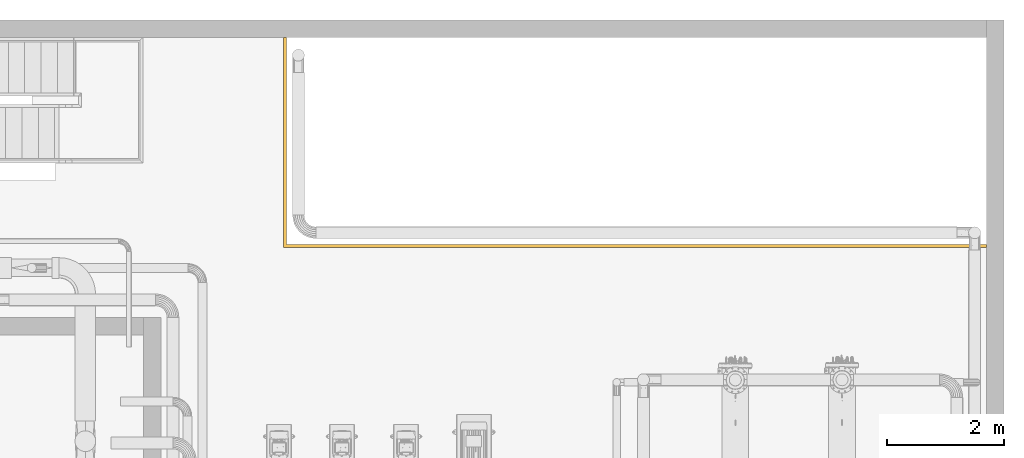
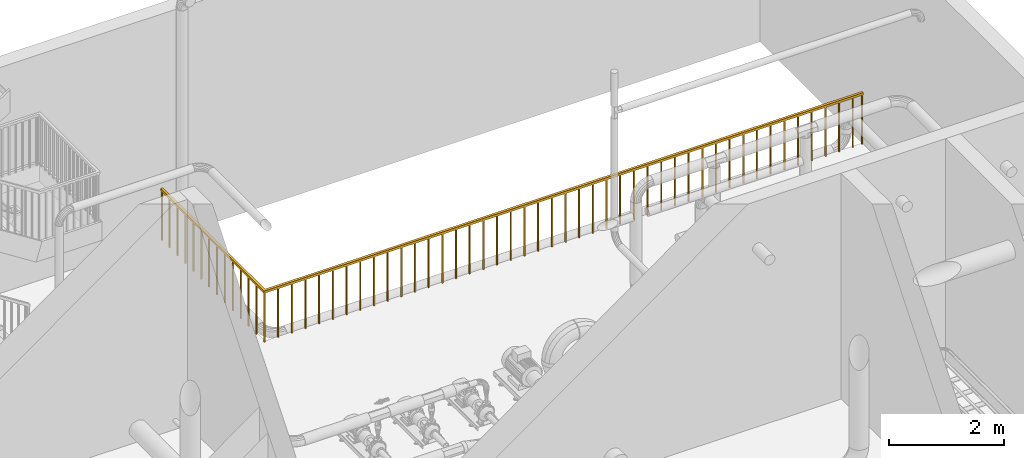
# One storey, part 3 of 28: 1 railing.
"""IFC2X3 building model written with IfcOpenShell, lengths in millimetres."""

from ifc_helpers import new_model, entity, si_unit, converted_unit, direction, frame, origin, place, context, subcontext, project, spatial, faceted_brep, material, type_object, element, save


model = new_model("IFC2X3")

# Units and contexts
model_context = context("Model", 3, precision=0.01, world=origin(), true_north=direction((6.123031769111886e-17, 1.0)))
body_context = subcontext(model_context, "Body", "Model", "MODEL_VIEW")
ifc_project = project(units=[si_unit("LENGTHUNIT", "METRE", prefix="MILLI"), converted_unit("PLANEANGLEUNIT", "DEGREE", entity("IfcPlaneAngleMeasure", 0.017453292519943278), si_unit("PLANEANGLEUNIT", "RADIAN"), dimensions=[0, 0, 0, 0, 0, 0, 0]), si_unit("AREAUNIT", "SQUARE_METRE")], contexts=[model_context])

# Site, building, storey
site_placement = place(None, frame((7776.576483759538, 118.3519876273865, 0.0)))
site = spatial("IfcSite", under=ifc_project, at=site_placement, Name="Default", CompositionType="ELEMENT")
building_placement = place(site_placement, origin())
building = spatial("IfcBuilding", under=site, at=building_placement, Name="Bygning (endres i Project Information)", CompositionType="ELEMENT")
storey_placement = place(building_placement, frame((0.0, 0.0, 14000.0)))
storey = spatial("IfcBuildingStorey", under=building, at=storey_placement, Name="Plan U1 - Arbeid", CompositionType="ELEMENT", Elevation=14000.000000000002)

# Railing
ifc_material = material(Name="<Unnamed>")
railing_type = type_object("IfcRailingType", Name="Railing:1100mm", PredefinedType="NOTDEFINED")
railing_placement = place(storey_placement, frame((19924.00137486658, 30697.757305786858, 0.0)))
element("IfcRailing", 1, at=railing_placement, inside=storey, type_object=railing_type, material=ifc_material, Name="Railing:1100mm", ObjectType="Railing:1100mm", PredefinedType="NOTDEFINED", context=body_context, shape_type="Brep", body=[
    faceted_brep([(11837.499999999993, 37.50000000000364, 1050.0), (11837.499999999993, 37.50000000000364, 0.0), (11837.499999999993, 12.5, 0.0), (11837.499999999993, 12.500000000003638, 1050.0), (11862.499999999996, 12.5, 0.0), (11862.499999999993, 12.5, 1050.0), (11862.499999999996, 37.50000000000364, 0.0), (11862.499999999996, 37.49999999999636, 1050.0)], [[[0, 1, 2, 3]], [[3, 2, 4, 5]], [[5, 4, 6, 7]], [[1, 0, 7, 6]], [[0, 3, 5, 7]], [[2, 1, 6, 4]]]),
    faceted_brep([(11562.499999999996, 37.50000000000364, 1050.0), (11562.499999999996, 37.50000000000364, 0.0), (11562.499999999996, 12.5, 0.0), (11562.499999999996, 12.500000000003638, 1050.0), (11587.499999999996, 12.5, 0.0), (11587.499999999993, 12.5, 1050.0), (11587.499999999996, 37.50000000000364, 0.0), (11587.499999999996, 37.49999999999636, 1050.0)], [[[0, 1, 2, 3]], [[3, 2, 4, 5]], [[5, 4, 6, 7]], [[1, 0, 7, 6]], [[0, 3, 5, 7]], [[2, 1, 6, 4]]]),
    faceted_brep([(11287.499999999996, 37.500000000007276, 1050.0), (11287.499999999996, 37.500000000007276, 0.0), (11287.499999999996, 12.500000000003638, 0.0), (11287.499999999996, 12.500000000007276, 1050.0), (11312.5, 12.500000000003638, 0.0), (11312.499999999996, 12.500000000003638, 1050.0), (11312.5, 37.500000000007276, 0.0), (11312.5, 37.50000000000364, 1050.0)], [[[0, 1, 2, 3]], [[3, 2, 4, 5]], [[5, 4, 6, 7]], [[1, 0, 7, 6]], [[0, 3, 5, 7]], [[2, 1, 6, 4]]]),
    faceted_brep([(11012.499999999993, 37.500000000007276, 1050.0), (11012.499999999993, 37.500000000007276, 0.0), (11012.499999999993, 12.500000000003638, 0.0), (11012.499999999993, 12.500000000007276, 1050.0), (11037.499999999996, 12.500000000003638, 0.0), (11037.499999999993, 12.500000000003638, 1050.0), (11037.499999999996, 37.500000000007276, 0.0), (11037.499999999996, 37.50000000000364, 1050.0)], [[[0, 1, 2, 3]], [[3, 2, 4, 5]], [[5, 4, 6, 7]], [[1, 0, 7, 6]], [[0, 3, 5, 7]], [[2, 1, 6, 4]]]),
    faceted_brep([(10737.499999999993, 37.500000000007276, 1050.0), (10737.499999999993, 37.500000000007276, 0.0), (10737.499999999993, 12.500000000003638, 0.0), (10737.499999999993, 12.500000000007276, 1050.0), (10762.499999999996, 12.500000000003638, 0.0), (10762.499999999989, 12.500000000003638, 1050.0), (10762.499999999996, 37.500000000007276, 0.0), (10762.499999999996, 37.50000000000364, 1050.0)], [[[0, 1, 2, 3]], [[3, 2, 4, 5]], [[5, 4, 6, 7]], [[1, 0, 7, 6]], [[0, 3, 5, 7]], [[2, 1, 6, 4]]]),
    faceted_brep([(10462.499999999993, 37.500000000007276, 1050.0), (10462.499999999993, 37.500000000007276, 0.0), (10462.499999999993, 12.500000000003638, 0.0), (10462.499999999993, 12.500000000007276, 1050.0), (10487.499999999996, 12.500000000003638, 0.0), (10487.499999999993, 12.500000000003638, 1050.0), (10487.499999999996, 37.500000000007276, 0.0), (10487.499999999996, 37.50000000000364, 1050.0)], [[[0, 1, 2, 3]], [[3, 2, 4, 5]], [[5, 4, 6, 7]], [[1, 0, 7, 6]], [[0, 3, 5, 7]], [[2, 1, 6, 4]]]),
    faceted_brep([(10187.499999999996, 37.500000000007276, 1050.0), (10187.499999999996, 37.500000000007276, 0.0), (10187.499999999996, 12.500000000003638, 0.0), (10187.499999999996, 12.500000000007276, 1050.0), (10212.5, 12.500000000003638, 0.0), (10212.499999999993, 12.500000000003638, 1050.0), (10212.5, 37.500000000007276, 0.0), (10212.5, 37.50000000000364, 1050.0)], [[[0, 1, 2, 3]], [[3, 2, 4, 5]], [[5, 4, 6, 7]], [[1, 0, 7, 6]], [[0, 3, 5, 7]], [[2, 1, 6, 4]]]),
    faceted_brep([(9912.499999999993, 37.500000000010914, 1050.0), (9912.499999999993, 37.500000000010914, 0.0), (9912.499999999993, 12.500000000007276, 0.0), (9912.499999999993, 12.500000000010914, 1050.0), (9937.499999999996, 12.500000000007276, 0.0), (9937.499999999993, 12.500000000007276, 1050.0), (9937.499999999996, 37.500000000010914, 0.0), (9937.499999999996, 37.500000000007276, 1050.0)], [[[0, 1, 2, 3]], [[3, 2, 4, 5]], [[5, 4, 6, 7]], [[1, 0, 7, 6]], [[0, 3, 5, 7]], [[2, 1, 6, 4]]]),
    faceted_brep([(9637.499999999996, 37.500000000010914, 1050.0), (9637.499999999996, 37.500000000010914, 0.0), (9637.499999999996, 12.500000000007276, 0.0), (9637.499999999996, 12.500000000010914, 1050.0), (9662.499999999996, 12.500000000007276, 0.0), (9662.499999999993, 12.500000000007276, 1050.0), (9662.499999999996, 37.500000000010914, 0.0), (9662.499999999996, 37.500000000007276, 1050.0)], [[[0, 1, 2, 3]], [[3, 2, 4, 5]], [[5, 4, 6, 7]], [[1, 0, 7, 6]], [[0, 3, 5, 7]], [[2, 1, 6, 4]]]),
    faceted_brep([(9362.499999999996, 37.500000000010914, 1050.0), (9362.499999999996, 37.500000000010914, 0.0), (9362.499999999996, 12.500000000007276, 0.0), (9362.499999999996, 12.500000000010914, 1050.0), (9387.5, 12.500000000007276, 0.0), (9387.499999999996, 12.500000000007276, 1050.0), (9387.5, 37.500000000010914, 0.0), (9387.5, 37.500000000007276, 1050.0)], [[[0, 1, 2, 3]], [[3, 2, 4, 5]], [[5, 4, 6, 7]], [[1, 0, 7, 6]], [[0, 3, 5, 7]], [[2, 1, 6, 4]]]),
    faceted_brep([(9087.499999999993, 37.500000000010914, 1050.0), (9087.499999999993, 37.500000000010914, 0.0), (9087.499999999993, 12.500000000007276, 0.0), (9087.499999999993, 12.500000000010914, 1050.0), (9112.499999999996, 12.500000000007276, 0.0), (9112.499999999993, 12.500000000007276, 1050.0), (9112.499999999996, 37.500000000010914, 0.0), (9112.499999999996, 37.500000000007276, 1050.0)], [[[0, 1, 2, 3]], [[3, 2, 4, 5]], [[5, 4, 6, 7]], [[1, 0, 7, 6]], [[0, 3, 5, 7]], [[2, 1, 6, 4]]]),
    faceted_brep([(8812.499999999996, 37.500000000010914, 1050.0), (8812.499999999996, 37.500000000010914, 0.0), (8812.499999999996, 12.500000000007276, 0.0), (8812.499999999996, 12.500000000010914, 1050.0), (8837.5, 12.500000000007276, 0.0), (8837.499999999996, 12.500000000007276, 1050.0), (8837.5, 37.500000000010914, 0.0), (8837.5, 37.500000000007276, 1050.0)], [[[0, 1, 2, 3]], [[3, 2, 4, 5]], [[5, 4, 6, 7]], [[1, 0, 7, 6]], [[0, 3, 5, 7]], [[2, 1, 6, 4]]]),
    faceted_brep([(8537.499999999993, 37.50000000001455, 1050.0), (8537.499999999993, 37.50000000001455, 0.0), (8537.499999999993, 12.500000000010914, 0.0), (8537.499999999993, 12.500000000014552, 1050.0), (8562.499999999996, 12.500000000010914, 0.0), (8562.499999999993, 12.500000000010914, 1050.0), (8562.499999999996, 37.50000000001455, 0.0), (8562.499999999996, 37.500000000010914, 1050.0)], [[[0, 1, 2, 3]], [[3, 2, 4, 5]], [[5, 4, 6, 7]], [[1, 0, 7, 6]], [[0, 3, 5, 7]], [[2, 1, 6, 4]]]),
    faceted_brep([(8262.499999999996, 37.50000000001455, 1050.0), (8262.499999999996, 37.50000000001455, 0.0), (8262.499999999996, 12.500000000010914, 0.0), (8262.499999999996, 12.500000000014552, 1050.0), (8287.5, 12.500000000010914, 0.0), (8287.499999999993, 12.500000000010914, 1050.0), (8287.5, 37.50000000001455, 0.0), (8287.5, 37.500000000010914, 1050.0)], [[[0, 1, 2, 3]], [[3, 2, 4, 5]], [[5, 4, 6, 7]], [[1, 0, 7, 6]], [[0, 3, 5, 7]], [[2, 1, 6, 4]]]),
    faceted_brep([(7987.499999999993, 37.50000000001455, 1050.0), (7987.499999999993, 37.50000000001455, 0.0), (7987.499999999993, 12.500000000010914, 0.0), (7987.499999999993, 12.500000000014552, 1050.0), (8012.499999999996, 12.500000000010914, 0.0), (8012.499999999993, 12.500000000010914, 1050.0), (8012.499999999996, 37.50000000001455, 0.0), (8012.499999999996, 37.500000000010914, 1050.0)], [[[0, 1, 2, 3]], [[3, 2, 4, 5]], [[5, 4, 6, 7]], [[1, 0, 7, 6]], [[0, 3, 5, 7]], [[2, 1, 6, 4]]]),
    faceted_brep([(7712.499999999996, 37.50000000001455, 1050.0), (7712.499999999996, 37.50000000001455, 0.0), (7712.499999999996, 12.500000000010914, 0.0), (7712.499999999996, 12.500000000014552, 1050.0), (7737.499999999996, 12.500000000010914, 0.0), (7737.499999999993, 12.500000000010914, 1050.0), (7737.499999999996, 37.50000000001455, 0.0), (7737.499999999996, 37.500000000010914, 1050.0)], [[[0, 1, 2, 3]], [[3, 2, 4, 5]], [[5, 4, 6, 7]], [[1, 0, 7, 6]], [[0, 3, 5, 7]], [[2, 1, 6, 4]]]),
    faceted_brep([(7437.499999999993, 37.50000000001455, 1050.0), (7437.499999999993, 37.50000000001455, 0.0), (7437.499999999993, 12.500000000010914, 0.0), (7437.499999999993, 12.500000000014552, 1050.0), (7462.499999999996, 12.500000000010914, 0.0), (7462.499999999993, 12.500000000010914, 1050.0), (7462.499999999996, 37.50000000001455, 0.0), (7462.499999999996, 37.500000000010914, 1050.0)], [[[0, 1, 2, 3]], [[3, 2, 4, 5]], [[5, 4, 6, 7]], [[1, 0, 7, 6]], [[0, 3, 5, 7]], [[2, 1, 6, 4]]]),
    faceted_brep([(7162.499999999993, 37.50000000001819, 1050.0), (7162.499999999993, 37.50000000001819, 0.0), (7162.499999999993, 12.500000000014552, 0.0), (7162.499999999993, 12.500000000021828, 1050.0), (7187.499999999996, 12.500000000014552, 0.0), (7187.499999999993, 12.500000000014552, 1050.0), (7187.499999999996, 37.50000000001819, 0.0), (7187.499999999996, 37.50000000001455, 1050.0)], [[[0, 1, 2, 3]], [[3, 2, 4, 5]], [[5, 4, 6, 7]], [[1, 0, 7, 6]], [[0, 3, 5, 7]], [[2, 1, 6, 4]]]),
    faceted_brep([(6887.499999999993, 37.50000000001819, 1050.0), (6887.499999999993, 37.50000000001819, 0.0), (6887.499999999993, 12.500000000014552, 0.0), (6887.499999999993, 12.500000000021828, 1050.0), (6912.499999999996, 12.500000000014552, 0.0), (6912.499999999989, 12.500000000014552, 1050.0), (6912.499999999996, 37.50000000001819, 0.0), (6912.499999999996, 37.50000000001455, 1050.0)], [[[0, 1, 2, 3]], [[3, 2, 4, 5]], [[5, 4, 6, 7]], [[1, 0, 7, 6]], [[0, 3, 5, 7]], [[2, 1, 6, 4]]]),
    faceted_brep([(6612.499999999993, 37.50000000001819, 1050.0), (6612.499999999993, 37.50000000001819, 0.0), (6612.499999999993, 12.500000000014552, 0.0), (6612.499999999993, 12.500000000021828, 1050.0), (6637.499999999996, 12.500000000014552, 0.0), (6637.499999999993, 12.500000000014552, 1050.0), (6637.499999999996, 37.50000000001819, 0.0), (6637.499999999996, 37.50000000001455, 1050.0)], [[[0, 1, 2, 3]], [[3, 2, 4, 5]], [[5, 4, 6, 7]], [[1, 0, 7, 6]], [[0, 3, 5, 7]], [[2, 1, 6, 4]]]),
    faceted_brep([(6337.499999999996, 37.50000000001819, 1050.0), (6337.499999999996, 37.50000000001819, 0.0), (6337.499999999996, 12.500000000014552, 0.0), (6337.499999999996, 12.500000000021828, 1050.0), (6362.5, 12.500000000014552, 0.0), (6362.499999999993, 12.500000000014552, 1050.0), (6362.5, 37.50000000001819, 0.0), (6362.5, 37.50000000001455, 1050.0)], [[[0, 1, 2, 3]], [[3, 2, 4, 5]], [[5, 4, 6, 7]], [[1, 0, 7, 6]], [[0, 3, 5, 7]], [[2, 1, 6, 4]]]),
    faceted_brep([(6062.499999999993, 37.50000000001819, 1050.0), (6062.499999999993, 37.50000000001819, 0.0), (6062.499999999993, 12.500000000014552, 0.0), (6062.499999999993, 12.500000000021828, 1050.0), (6087.499999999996, 12.500000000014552, 0.0), (6087.499999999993, 12.500000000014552, 1050.0), (6087.499999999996, 37.50000000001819, 0.0), (6087.499999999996, 37.50000000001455, 1050.0)], [[[0, 1, 2, 3]], [[3, 2, 4, 5]], [[5, 4, 6, 7]], [[1, 0, 7, 6]], [[0, 3, 5, 7]], [[2, 1, 6, 4]]]),
    faceted_brep([(5787.499999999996, 37.50000000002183, 1050.0), (5787.499999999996, 37.50000000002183, 0.0), (5787.499999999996, 12.500000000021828, 0.0), (5787.499999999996, 12.500000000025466, 1050.0), (5812.5, 12.500000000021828, 0.0), (5812.499999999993, 12.500000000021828, 1050.0), (5812.5, 37.50000000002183, 0.0), (5812.5, 37.50000000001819, 1050.0)], [[[0, 1, 2, 3]], [[3, 2, 4, 5]], [[5, 4, 6, 7]], [[1, 0, 7, 6]], [[0, 3, 5, 7]], [[2, 1, 6, 4]]]),
    faceted_brep([(5512.499999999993, 37.50000000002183, 1050.0), (5512.499999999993, 37.50000000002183, 0.0), (5512.499999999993, 12.500000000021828, 0.0), (5512.499999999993, 12.500000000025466, 1050.0), (5537.499999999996, 12.500000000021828, 0.0), (5537.499999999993, 12.500000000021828, 1050.0), (5537.499999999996, 37.50000000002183, 0.0), (5537.499999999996, 37.50000000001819, 1050.0)], [[[0, 1, 2, 3]], [[3, 2, 4, 5]], [[5, 4, 6, 7]], [[1, 0, 7, 6]], [[0, 3, 5, 7]], [[2, 1, 6, 4]]]),
    faceted_brep([(5237.499999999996, 37.50000000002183, 1050.0), (5237.499999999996, 37.50000000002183, 0.0), (5237.499999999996, 12.500000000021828, 0.0), (5237.499999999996, 12.500000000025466, 1050.0), (5262.499999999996, 12.500000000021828, 0.0), (5262.499999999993, 12.500000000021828, 1050.0), (5262.499999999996, 37.50000000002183, 0.0), (5262.499999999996, 37.50000000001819, 1050.0)], [[[0, 1, 2, 3]], [[3, 2, 4, 5]], [[5, 4, 6, 7]], [[1, 0, 7, 6]], [[0, 3, 5, 7]], [[2, 1, 6, 4]]]),
    faceted_brep([(4962.499999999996, 37.50000000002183, 1050.0), (4962.499999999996, 37.50000000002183, 0.0), (4962.499999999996, 12.500000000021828, 0.0), (4962.499999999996, 12.500000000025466, 1050.0), (4987.5, 12.500000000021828, 0.0), (4987.499999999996, 12.500000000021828, 1050.0), (4987.5, 37.50000000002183, 0.0), (4987.5, 37.50000000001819, 1050.0)], [[[0, 1, 2, 3]], [[3, 2, 4, 5]], [[5, 4, 6, 7]], [[1, 0, 7, 6]], [[0, 3, 5, 7]], [[2, 1, 6, 4]]]),
    faceted_brep([(4687.499999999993, 37.50000000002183, 1050.0), (4687.499999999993, 37.50000000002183, 0.0), (4687.499999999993, 12.500000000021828, 0.0), (4687.499999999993, 12.500000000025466, 1050.0), (4712.499999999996, 12.500000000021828, 0.0), (4712.499999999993, 12.500000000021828, 1050.0), (4712.499999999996, 37.50000000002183, 0.0), (4712.499999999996, 37.50000000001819, 1050.0)], [[[0, 1, 2, 3]], [[3, 2, 4, 5]], [[5, 4, 6, 7]], [[1, 0, 7, 6]], [[0, 3, 5, 7]], [[2, 1, 6, 4]]]),
    faceted_brep([(4412.499999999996, 37.500000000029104, 1050.0), (4412.499999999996, 37.500000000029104, 0.0), (4412.499999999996, 12.500000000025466, 0.0), (4412.499999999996, 12.500000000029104, 1050.0), (4437.5, 12.500000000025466, 0.0), (4437.499999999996, 12.500000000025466, 1050.0), (4437.5, 37.500000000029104, 0.0), (4437.5, 37.50000000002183, 1050.0)], [[[0, 1, 2, 3]], [[3, 2, 4, 5]], [[5, 4, 6, 7]], [[1, 0, 7, 6]], [[0, 3, 5, 7]], [[2, 1, 6, 4]]]),
    faceted_brep([(4137.499999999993, 37.500000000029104, 1050.0), (4137.499999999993, 37.500000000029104, 0.0), (4137.499999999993, 12.500000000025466, 0.0), (4137.499999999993, 12.500000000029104, 1050.0), (4162.499999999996, 12.500000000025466, 0.0), (4162.499999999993, 12.500000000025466, 1050.0), (4162.499999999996, 37.500000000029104, 0.0), (4162.499999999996, 37.50000000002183, 1050.0)], [[[0, 1, 2, 3]], [[3, 2, 4, 5]], [[5, 4, 6, 7]], [[1, 0, 7, 6]], [[0, 3, 5, 7]], [[2, 1, 6, 4]]]),
    faceted_brep([(3862.4999999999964, 37.500000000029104, 1050.0), (3862.4999999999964, 37.500000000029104, 0.0), (3862.4999999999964, 12.500000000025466, 0.0), (3862.4999999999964, 12.500000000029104, 1050.0), (3887.5, 12.500000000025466, 0.0), (3887.4999999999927, 12.500000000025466, 1050.0), (3887.5, 37.500000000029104, 0.0), (3887.5, 37.50000000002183, 1050.0)], [[[0, 1, 2, 3]], [[3, 2, 4, 5]], [[5, 4, 6, 7]], [[1, 0, 7, 6]], [[0, 3, 5, 7]], [[2, 1, 6, 4]]]),
    faceted_brep([(3587.4999999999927, 37.500000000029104, 1050.0), (3587.4999999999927, 37.500000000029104, 0.0), (3587.4999999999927, 12.500000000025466, 0.0), (3587.4999999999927, 12.500000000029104, 1050.0), (3612.4999999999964, 12.500000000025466, 0.0), (3612.4999999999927, 12.500000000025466, 1050.0), (3612.4999999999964, 37.500000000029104, 0.0), (3612.4999999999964, 37.50000000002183, 1050.0)], [[[0, 1, 2, 3]], [[3, 2, 4, 5]], [[5, 4, 6, 7]], [[1, 0, 7, 6]], [[0, 3, 5, 7]], [[2, 1, 6, 4]]]),
    faceted_brep([(3312.4999999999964, 37.50000000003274, 1050.0), (3312.4999999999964, 37.50000000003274, 0.0), (3312.4999999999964, 12.500000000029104, 0.0), (3312.4999999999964, 12.500000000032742, 1050.0), (3337.4999999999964, 12.500000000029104, 0.0), (3337.4999999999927, 12.500000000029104, 1050.0), (3337.4999999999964, 37.50000000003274, 0.0), (3337.4999999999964, 37.500000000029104, 1050.0)], [[[0, 1, 2, 3]], [[3, 2, 4, 5]], [[5, 4, 6, 7]], [[1, 0, 7, 6]], [[0, 3, 5, 7]], [[2, 1, 6, 4]]]),
    faceted_brep([(3037.4999999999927, 37.50000000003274, 1050.0), (3037.4999999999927, 37.50000000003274, 0.0), (3037.4999999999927, 12.500000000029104, 0.0), (3037.4999999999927, 12.500000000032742, 1050.0), (3062.4999999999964, 12.500000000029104, 0.0), (3062.4999999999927, 12.500000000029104, 1050.0), (3062.4999999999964, 37.50000000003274, 0.0), (3062.4999999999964, 37.500000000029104, 1050.0)], [[[0, 1, 2, 3]], [[3, 2, 4, 5]], [[5, 4, 6, 7]], [[1, 0, 7, 6]], [[0, 3, 5, 7]], [[2, 1, 6, 4]]]),
    faceted_brep([(2762.4999999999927, 37.50000000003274, 1050.0), (2762.4999999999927, 37.50000000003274, 0.0), (2762.4999999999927, 12.500000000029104, 0.0), (2762.4999999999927, 12.500000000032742, 1050.0), (2787.4999999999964, 12.500000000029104, 0.0), (2787.4999999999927, 12.500000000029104, 1050.0), (2787.4999999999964, 37.50000000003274, 0.0), (2787.4999999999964, 37.500000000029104, 1050.0)], [[[0, 1, 2, 3]], [[3, 2, 4, 5]], [[5, 4, 6, 7]], [[1, 0, 7, 6]], [[0, 3, 5, 7]], [[2, 1, 6, 4]]]),
    faceted_brep([(2487.4999999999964, 37.50000000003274, 1050.0), (2487.4999999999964, 37.50000000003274, 0.0), (2487.4999999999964, 12.500000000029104, 0.0), (2487.4999999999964, 12.500000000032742, 1050.0), (2512.5, 12.500000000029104, 0.0), (2512.4999999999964, 12.500000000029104, 1050.0), (2512.5, 37.50000000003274, 0.0), (2512.5, 37.500000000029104, 1050.0)], [[[0, 1, 2, 3]], [[3, 2, 4, 5]], [[5, 4, 6, 7]], [[1, 0, 7, 6]], [[0, 3, 5, 7]], [[2, 1, 6, 4]]]),
    faceted_brep([(2212.4999999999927, 37.50000000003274, 1050.0), (2212.4999999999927, 37.50000000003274, 0.0), (2212.4999999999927, 12.500000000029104, 0.0), (2212.4999999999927, 12.500000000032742, 1050.0), (2237.4999999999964, 12.500000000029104, 0.0), (2237.4999999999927, 12.500000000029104, 1050.0), (2237.4999999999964, 37.50000000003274, 0.0), (2237.4999999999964, 37.500000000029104, 1050.0)], [[[0, 1, 2, 3]], [[3, 2, 4, 5]], [[5, 4, 6, 7]], [[1, 0, 7, 6]], [[0, 3, 5, 7]], [[2, 1, 6, 4]]]),
    faceted_brep([(1937.4999999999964, 37.50000000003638, 1050.0), (1937.4999999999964, 37.50000000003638, 0.0), (1937.4999999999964, 12.500000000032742, 0.0), (1937.4999999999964, 12.50000000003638, 1050.0), (1962.5, 12.500000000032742, 0.0), (1962.4999999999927, 12.500000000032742, 1050.0), (1962.5, 37.50000000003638, 0.0), (1962.5, 37.50000000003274, 1050.0)], [[[0, 1, 2, 3]], [[3, 2, 4, 5]], [[5, 4, 6, 7]], [[1, 0, 7, 6]], [[0, 3, 5, 7]], [[2, 1, 6, 4]]]),
    faceted_brep([(1662.4999999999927, 37.50000000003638, 1050.0), (1662.4999999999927, 37.50000000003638, 0.0), (1662.4999999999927, 12.500000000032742, 0.0), (1662.4999999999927, 12.50000000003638, 1050.0), (1687.4999999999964, 12.500000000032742, 0.0), (1687.4999999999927, 12.500000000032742, 1050.0), (1687.4999999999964, 37.50000000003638, 0.0), (1687.4999999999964, 37.50000000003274, 1050.0)], [[[0, 1, 2, 3]], [[3, 2, 4, 5]], [[5, 4, 6, 7]], [[1, 0, 7, 6]], [[0, 3, 5, 7]], [[2, 1, 6, 4]]]),
    faceted_brep([(1387.4999999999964, 37.50000000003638, 1050.0), (1387.4999999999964, 37.50000000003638, 0.0), (1387.4999999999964, 12.500000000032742, 0.0), (1387.4999999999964, 12.50000000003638, 1050.0), (1412.4999999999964, 12.500000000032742, 0.0), (1412.4999999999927, 12.500000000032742, 1050.0), (1412.4999999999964, 37.50000000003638, 0.0), (1412.4999999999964, 37.50000000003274, 1050.0)], [[[0, 1, 2, 3]], [[3, 2, 4, 5]], [[5, 4, 6, 7]], [[1, 0, 7, 6]], [[0, 3, 5, 7]], [[2, 1, 6, 4]]]),
    faceted_brep([(1112.4999999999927, 37.50000000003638, 1050.0), (1112.4999999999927, 37.50000000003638, 0.0), (1112.4999999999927, 12.500000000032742, 0.0), (1112.4999999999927, 12.50000000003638, 1050.0), (1137.4999999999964, 12.500000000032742, 0.0), (1137.4999999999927, 12.500000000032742, 1050.0), (1137.4999999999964, 37.50000000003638, 0.0), (1137.4999999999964, 37.50000000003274, 1050.0)], [[[0, 1, 2, 3]], [[3, 2, 4, 5]], [[5, 4, 6, 7]], [[1, 0, 7, 6]], [[0, 3, 5, 7]], [[2, 1, 6, 4]]]),
    faceted_brep([(837.4999999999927, 37.50000000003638, 1050.0), (837.4999999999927, 37.50000000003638, 0.0), (837.4999999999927, 12.500000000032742, 0.0), (837.4999999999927, 12.50000000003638, 1050.0), (862.4999999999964, 12.500000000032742, 0.0), (862.4999999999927, 12.500000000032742, 1050.0), (862.4999999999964, 37.50000000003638, 0.0), (862.4999999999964, 37.50000000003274, 1050.0)], [[[0, 1, 2, 3]], [[3, 2, 4, 5]], [[5, 4, 6, 7]], [[1, 0, 7, 6]], [[0, 3, 5, 7]], [[2, 1, 6, 4]]]),
    faceted_brep([(562.4999999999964, 37.50000000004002, 1050.0), (562.4999999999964, 37.50000000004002, 0.0), (562.4999999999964, 12.50000000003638, 0.0), (562.4999999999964, 12.500000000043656, 1050.0), (587.5, 12.50000000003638, 0.0), (587.4999999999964, 12.50000000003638, 1050.0), (587.5, 37.50000000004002, 0.0), (587.5, 37.50000000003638, 1050.0)], [[[0, 1, 2, 3]], [[3, 2, 4, 5]], [[5, 4, 6, 7]], [[1, 0, 7, 6]], [[0, 3, 5, 7]], [[2, 1, 6, 4]]]),
    faceted_brep([(287.4999999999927, 37.50000000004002, 1050.0), (287.4999999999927, 37.50000000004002, 0.0), (287.4999999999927, 12.50000000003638, 0.0), (287.4999999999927, 12.500000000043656, 1050.0), (312.49999999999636, 12.50000000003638, 0.0), (312.4999999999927, 12.50000000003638, 1050.0), (312.49999999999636, 37.50000000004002, 0.0), (312.49999999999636, 37.50000000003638, 1050.0)], [[[0, 1, 2, 3]], [[3, 2, 4, 5]], [[5, 4, 6, 7]], [[1, 0, 7, 6]], [[0, 3, 5, 7]], [[2, 1, 6, 4]]]),
    faceted_brep([(37.5, 312.50000000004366, 1050.0), (37.5, 312.50000000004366, 0.0), (12.499999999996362, 312.50000000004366, 0.0), (12.5, 312.50000000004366, 1050.0), (12.499999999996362, 287.50000000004, 0.0), (12.499999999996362, 287.50000000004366, 1050.0), (37.5, 287.50000000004, 0.0), (37.499999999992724, 287.50000000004, 1050.0)], [[[0, 1, 2, 3]], [[3, 2, 4, 5]], [[5, 4, 6, 7]], [[1, 0, 7, 6]], [[0, 3, 5, 7]], [[2, 1, 6, 4]]]),
    faceted_brep([(37.5, 587.50000000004, 1050.0), (37.5, 587.50000000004, 0.0), (12.499999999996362, 587.50000000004, 0.0), (12.5, 587.50000000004, 1050.0), (12.499999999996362, 562.50000000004, 0.0), (12.499999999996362, 562.5000000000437, 1050.0), (37.5, 562.50000000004, 0.0), (37.499999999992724, 562.50000000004, 1050.0)], [[[0, 1, 2, 3]], [[3, 2, 4, 5]], [[5, 4, 6, 7]], [[1, 0, 7, 6]], [[0, 3, 5, 7]], [[2, 1, 6, 4]]]),
    faceted_brep([(37.5, 862.5000000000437, 1050.0), (37.5, 862.5000000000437, 0.0), (12.499999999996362, 862.5000000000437, 0.0), (12.5, 862.5000000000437, 1050.0), (12.499999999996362, 837.50000000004, 0.0), (12.499999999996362, 837.5000000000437, 1050.0), (37.5, 837.50000000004, 0.0), (37.499999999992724, 837.50000000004, 1050.0)], [[[0, 1, 2, 3]], [[3, 2, 4, 5]], [[5, 4, 6, 7]], [[1, 0, 7, 6]], [[0, 3, 5, 7]], [[2, 1, 6, 4]]]),
    faceted_brep([(37.5, 1137.5000000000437, 1050.0), (37.5, 1137.5000000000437, 0.0), (12.499999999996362, 1137.5000000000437, 0.0), (12.5, 1137.5000000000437, 1050.0), (12.499999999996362, 1112.50000000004, 0.0), (12.499999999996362, 1112.5000000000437, 1050.0), (37.5, 1112.50000000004, 0.0), (37.499999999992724, 1112.50000000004, 1050.0)], [[[0, 1, 2, 3]], [[3, 2, 4, 5]], [[5, 4, 6, 7]], [[1, 0, 7, 6]], [[0, 3, 5, 7]], [[2, 1, 6, 4]]]),
    faceted_brep([(37.5, 1412.50000000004, 1050.0), (37.5, 1412.50000000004, 0.0), (12.499999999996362, 1412.50000000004, 0.0), (12.5, 1412.50000000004, 1050.0), (12.499999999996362, 1387.5000000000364, 0.0), (12.499999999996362, 1387.50000000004, 1050.0), (37.5, 1387.5000000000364, 0.0), (37.499999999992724, 1387.5000000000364, 1050.0)], [[[0, 1, 2, 3]], [[3, 2, 4, 5]], [[5, 4, 6, 7]], [[1, 0, 7, 6]], [[0, 3, 5, 7]], [[2, 1, 6, 4]]]),
    faceted_brep([(37.50000000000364, 1687.5000000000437, 1050.0), (37.50000000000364, 1687.5000000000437, 0.0), (12.5, 1687.5000000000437, 0.0), (12.500000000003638, 1687.5000000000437, 1050.0), (12.5, 1662.50000000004, 0.0), (12.5, 1662.5000000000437, 1050.0), (37.50000000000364, 1662.50000000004, 0.0), (37.5, 1662.50000000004, 1050.0)], [[[0, 1, 2, 3]], [[3, 2, 4, 5]], [[5, 4, 6, 7]], [[1, 0, 7, 6]], [[0, 3, 5, 7]], [[2, 1, 6, 4]]]),
    faceted_brep([(37.50000000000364, 1962.50000000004, 1050.0), (37.50000000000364, 1962.50000000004, 0.0), (12.5, 1962.50000000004, 0.0), (12.500000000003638, 1962.50000000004, 1050.0), (12.5, 1937.5000000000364, 0.0), (12.5, 1937.5000000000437, 1050.0), (37.50000000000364, 1937.5000000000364, 0.0), (37.5, 1937.5000000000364, 1050.0)], [[[0, 1, 2, 3]], [[3, 2, 4, 5]], [[5, 4, 6, 7]], [[1, 0, 7, 6]], [[0, 3, 5, 7]], [[2, 1, 6, 4]]]),
    faceted_brep([(37.50000000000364, 2237.5000000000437, 1050.0), (37.50000000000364, 2237.5000000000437, 0.0), (12.5, 2237.5000000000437, 0.0), (12.500000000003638, 2237.5000000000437, 1050.0), (12.5, 2212.5000000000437, 0.0), (12.5, 2212.5000000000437, 1050.0), (37.50000000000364, 2212.5000000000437, 0.0), (37.5, 2212.5000000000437, 1050.0)], [[[0, 1, 2, 3]], [[3, 2, 4, 5]], [[5, 4, 6, 7]], [[1, 0, 7, 6]], [[0, 3, 5, 7]], [[2, 1, 6, 4]]]),
    faceted_brep([(37.50000000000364, 2512.5000000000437, 1050.0), (37.50000000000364, 2512.5000000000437, 0.0), (12.5, 2512.5000000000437, 0.0), (12.500000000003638, 2512.5000000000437, 1050.0), (12.5, 2487.5000000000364, 0.0), (12.5, 2487.5000000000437, 1050.0), (37.50000000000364, 2487.5000000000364, 0.0), (37.5, 2487.5000000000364, 1050.0)], [[[0, 1, 2, 3]], [[3, 2, 4, 5]], [[5, 4, 6, 7]], [[1, 0, 7, 6]], [[0, 3, 5, 7]], [[2, 1, 6, 4]]]),
    faceted_brep([(37.50000000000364, 2787.5000000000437, 1050.0), (37.50000000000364, 2787.5000000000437, 0.0), (12.5, 2787.5000000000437, 0.0), (12.500000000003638, 2787.5000000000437, 1050.0), (12.5, 2762.5000000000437, 0.0), (12.5, 2762.5000000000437, 1050.0), (37.50000000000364, 2762.5000000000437, 0.0), (37.5, 2762.5000000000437, 1050.0)], [[[0, 1, 2, 3]], [[3, 2, 4, 5]], [[5, 4, 6, 7]], [[1, 0, 7, 6]], [[0, 3, 5, 7]], [[2, 1, 6, 4]]]),
    faceted_brep([(37.50000000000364, 3062.5000000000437, 1050.0), (37.50000000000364, 3062.5000000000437, 0.0), (12.5, 3062.5000000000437, 0.0), (12.500000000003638, 3062.5000000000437, 1050.0), (12.5, 3037.5000000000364, 0.0), (12.5, 3037.5000000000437, 1050.0), (37.50000000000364, 3037.5000000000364, 0.0), (37.5, 3037.5000000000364, 1050.0)], [[[0, 1, 2, 3]], [[3, 2, 4, 5]], [[5, 4, 6, 7]], [[1, 0, 7, 6]], [[0, 3, 5, 7]], [[2, 1, 6, 4]]]),
    faceted_brep([(37.50000000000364, 3337.5000000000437, 1050.0), (37.50000000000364, 3337.5000000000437, 0.0), (12.5, 3337.5000000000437, 0.0), (12.500000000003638, 3337.5000000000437, 1050.0), (12.5, 3312.5000000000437, 0.0), (12.5, 3312.5000000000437, 1050.0), (37.50000000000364, 3312.5000000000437, 0.0), (37.5, 3312.5000000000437, 1050.0)], [[[0, 1, 2, 3]], [[3, 2, 4, 5]], [[5, 4, 6, 7]], [[1, 0, 7, 6]], [[0, 3, 5, 7]], [[2, 1, 6, 4]]]),
    faceted_brep([(37.5, 37.50000000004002, 1050.0), (37.5, 37.50000000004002, 0.0), (12.499999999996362, 37.50000000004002, 0.0), (12.5, 37.50000000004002, 1050.0), (12.499999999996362, 12.50000000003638, 0.0), (12.499999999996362, 12.500000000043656, 1050.0), (37.5, 12.50000000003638, 0.0), (37.499999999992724, 12.50000000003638, 1050.0)], [[[0, 1, 2, 3]], [[3, 2, 4, 5]], [[5, 4, 6, 7]], [[1, 0, 7, 6]], [[0, 3, 5, 7]], [[2, 1, 6, 4]]]),
    faceted_brep([(12025.0, 37.50000000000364, 1050.0), (12025.0, 37.50000000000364, 0.0), (12025.0, 12.5, 0.0), (12025.0, 12.500000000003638, 1050.0), (12050.0, 12.5, 0.0), (12050.0, 12.5, 1050.0), (12050.0, 37.50000000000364, 0.0), (12050.0, 37.49999999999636, 1050.0)], [[[0, 1, 2, 3]], [[3, 2, 4, 5]], [[5, 4, 6, 7]], [[1, 0, 7, 6]], [[0, 3, 5, 7]], [[2, 1, 6, 4]]]),
    faceted_brep([(37.500000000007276, 3600.0, 1050.0), (37.500000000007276, 3600.0, 0.0), (12.500000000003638, 3600.0, 0.0), (12.500000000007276, 3600.0, 1050.0), (12.500000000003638, 3575.0, 0.0), (12.500000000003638, 3575.0, 1050.0), (37.500000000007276, 3575.0, 0.0), (37.50000000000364, 3575.0, 1050.0)], [[[0, 1, 2, 3]], [[3, 2, 4, 5]], [[5, 4, 6, 7]], [[1, 0, 7, 6]], [[0, 3, 5, 7]], [[2, 1, 6, 4]]]),
    faceted_brep([(0.0, 3600.0, 1100.0), (50.0, 3600.0, 1100.0), (50.0, 3600.0, 1050.0), (0.0, 3600.0, 1050.0), (0.0, 0.0, 1100.0), (50.0, 50.0, 1100.0), (50.0, 50.0, 1050.0), (0.0, 0.0, 1050.0), (12050.0, 0.0, 1100.0), (12050.0, 0.0, 1050.0), (12050.0, 50.0, 1050.0), (12050.0, 50.0, 1100.0)], [[[0, 1, 2, 3]], [[1, 0, 4, 5]], [[2, 1, 5, 6]], [[3, 2, 6, 7]], [[0, 3, 7, 4]], [[8, 9, 10, 11]], [[5, 4, 8, 11]], [[6, 5, 11, 10]], [[7, 6, 10, 9]], [[4, 7, 9, 8]]]),
])

save(model, "model.ifc")
